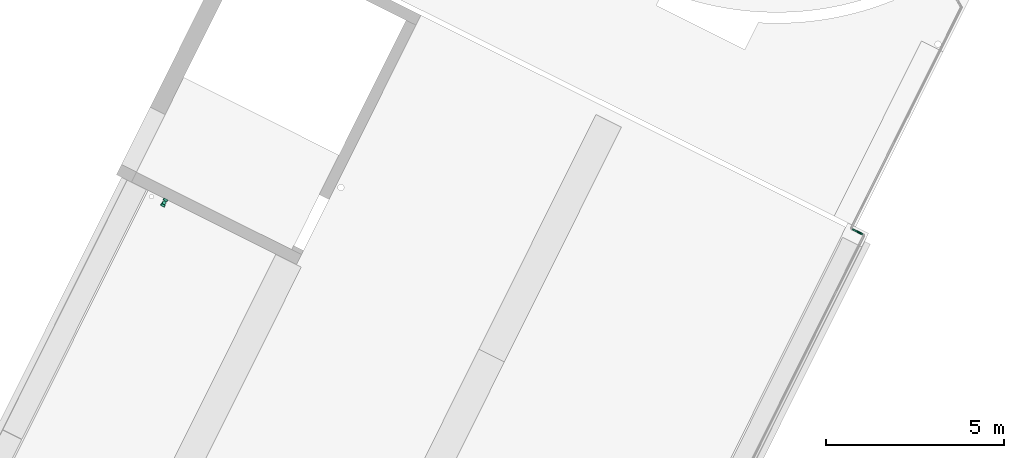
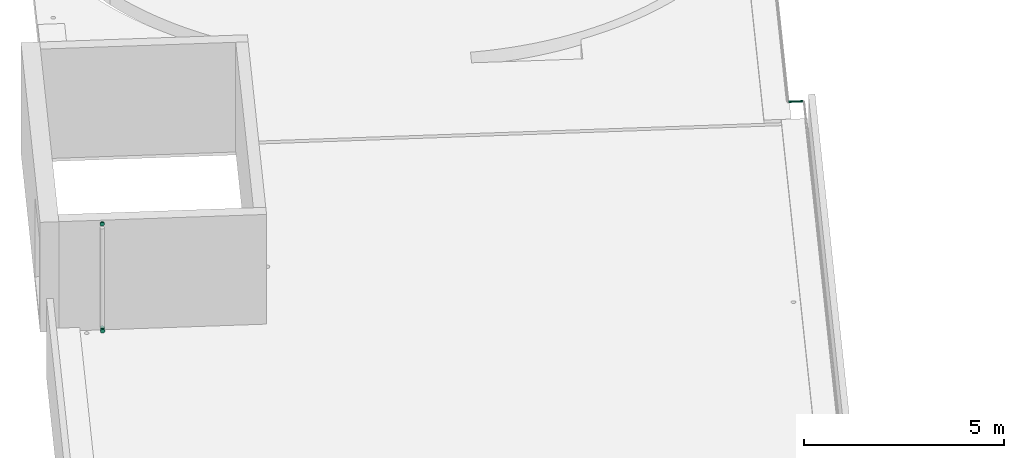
# One storey, part 24 of 34: 3 flow segments, 1 flow fitting.
"""IFC2X3 building model written with IfcOpenShell, lengths in metres."""

import ifcopenshell
import ifcopenshell.guid

model = None  # the IFC model being written
_history = None  # IfcOwnerHistory: only IFC2X3 demands one
_inside = {}  # id of a spatial element -> (the spatial element, [elements in it])
_under = {}  # id of a project, library or spatial element -> (it, [spatial elements below it])
_declared = {}  # id of a project -> (the project, [libraries it declares])
_typed = {}  # id of a type object -> (the type object, [elements of that type])
_made_of = {}  # id of a material, layer set ... -> (it, [elements and type objects made of it])


def new_model(schema):
    """Start an empty IFC model of exactly this schema.

    Asked for "IFC4X3", IfcOpenShell would pick the latest addendum, in which some entities
    have other attributes; the version numbers below select the first issue.
    IFC2X3 requires an IfcOwnerHistory on every rooted entity: one is made here for all.
    """
    global model, _history
    if schema == "IFC4X3":
        model = ifcopenshell.file(schema_version=(4, 3, 0, 0))
    else:
        model = ifcopenshell.file(schema=schema)
    _inside.clear()
    _under.clear()
    _declared.clear()
    _typed.clear()
    _made_of.clear()
    _history = None
    if model.schema == "IFC2X3":
        org = make("IfcOrganization", Name="unknown")
        user = make(
            "IfcPersonAndOrganization",
            ThePerson=make("IfcPerson", FamilyName="unknown"),
            TheOrganization=org,
        )
        app = make(
            "IfcApplication",
            ApplicationDeveloper=org,
            Version="unknown",
            ApplicationFullName="unknown",
            ApplicationIdentifier="unknown",
        )
        _history = make(
            "IfcOwnerHistory",
            OwningUser=user,
            OwningApplication=app,
            ChangeAction="ADDED",
            CreationDate=0,
        )
    return model


def make(cls, **values):
    """One entity of the class cls with the attributes given. An attribute that is None is left unset."""
    return model.create_entity(
        cls, **{name: value for name, value in values.items() if value is not None}
    )


def entity(cls, *values):
    """Any entity or typed value of the class cls, its attributes in the order of the schema. None: left unset."""
    e = model.create_entity(cls)
    for i, value in enumerate(values):
        if value is not None:
            e[i] = value
    return e


def rooted(cls, **values):
    """An entity with a GlobalId (a new one), such as an element, a storey or a relation."""
    return make(cls, GlobalId=ifcopenshell.guid.new(), OwnerHistory=_history, **values)


def si_unit(unit_type, name, prefix=None):
    """IfcSIUnit, for example si_unit("LENGTHUNIT", "METRE", prefix="MILLI")."""
    return make("IfcSIUnit", UnitType=unit_type, Prefix=prefix, Name=name)


def converted_unit(unit_type, name, factor, base, dimensions=None, offset=None):
    """IfcConversionBasedUnit, such as the inch: factor (a typed value) times the base unit."""
    return make(
        "IfcConversionBasedUnit"
        if offset is None
        else "IfcConversionBasedUnitWithOffset",
        ConversionOffset=offset,
        Dimensions=None
        if dimensions is None
        else entity("IfcDimensionalExponents", *dimensions),
        UnitType=unit_type,
        Name=name,
        ConversionFactor=make(
            "IfcMeasureWithUnit", ValueComponent=factor, UnitComponent=base
        ),
    )


def derived_unit(unit_type, elements):
    """IfcDerivedUnit: a product of units, each with its exponent."""
    return make(
        "IfcDerivedUnit",
        Elements=[
            make("IfcDerivedUnitElement", Unit=unit, Exponent=power)
            for unit, power in elements
        ],
        UnitType=unit_type,
    )


def assignment(units):
    """IfcUnitAssignment: the units of a project."""
    return None if units is None else make("IfcUnitAssignment", Units=units)


def point(xyz):
    """IfcCartesianPoint."""
    return None if xyz is None else make("IfcCartesianPoint", Coordinates=xyz)


def direction(xyz):
    """IfcDirection."""
    return None if xyz is None else make("IfcDirection", DirectionRatios=xyz)


def frame(location, z_axis=None, x_axis=None):
    """IfcAxis2Placement3D, a coordinate frame: its origin and axes. An axis left out is left unset."""
    return make(
        "IfcAxis2Placement3D",
        Location=point(location),
        Axis=direction(z_axis),
        RefDirection=direction(x_axis),
    )


def frame_2d(location, x_axis=None):
    """IfcAxis2Placement2D, a coordinate frame in the plane: its origin and x axis."""
    return make(
        "IfcAxis2Placement2D", Location=point(location), RefDirection=direction(x_axis)
    )


def origin():
    """The frame at (0, 0, 0) with its axes left unset."""
    return frame((0.0, 0.0, 0.0))


def origin_2d_with_axis():
    """The frame at (0, 0) in the plane with the x axis (1, 0) written out."""
    return frame_2d((0.0, 0.0), x_axis=(1.0, 0.0))


def place(relative_to, where):
    """IfcLocalPlacement: puts the frame where relative to a parent placement (None: the world)."""
    return make(
        "IfcLocalPlacement", PlacementRelTo=relative_to, RelativePlacement=where
    )


def context(
    kind, dimensions, precision=None, world=None, true_north=None, identifier=None
):
    """IfcGeometricRepresentationContext, for example the 3D "Model" context."""
    return make(
        "IfcGeometricRepresentationContext",
        ContextIdentifier=identifier,
        ContextType=kind,
        CoordinateSpaceDimension=dimensions,
        Precision=precision,
        WorldCoordinateSystem=world,
        TrueNorth=true_north,
    )


def subcontext(parent, identifier, kind, view, scale=None):
    """IfcGeometricRepresentationSubContext, for example "Body" below "Model"."""
    return make(
        "IfcGeometricRepresentationSubContext",
        ContextIdentifier=identifier,
        ContextType=kind,
        ParentContext=parent,
        TargetScale=scale,
        TargetView=view,
    )


def project(units=None, contexts=None):
    """IfcProject with its units and contexts."""
    return rooted(
        "IfcProject",
        Name="project",
        RepresentationContexts=contexts,
        UnitsInContext=assignment(units),
    )


def spatial(cls, under=None, at=None, **own):
    """A site, building, storey or space (cls), placed at a placement, below another one or the project."""
    s = rooted(cls, ObjectPlacement=at, **own)
    if under is not None:
        _under.setdefault(under.id(), (under, []))[1].append(s)
    return s


def profile(cls, at=None, kind="AREA", **sizes):
    """A parametric profile (cls). Its sizes go by their IFC names, for example OverallWidth=200.0."""
    return make(cls, ProfileType=kind, Position=at, **sizes)


def circle(**sizes):
    """IfcCircleProfileDef."""
    return profile("IfcCircleProfileDef", **sizes)


def extrude(swept, where, along, depth):
    """IfcExtrudedAreaSolid: the profile swept, set in the frame where, extruded along a direction by depth."""
    return make(
        "IfcExtrudedAreaSolid",
        SweptArea=swept,
        Position=where,
        ExtrudedDirection=direction(along),
        Depth=depth,
    )


def faces_of(points, faces, orient=None, outer=None):
    """IfcFace entities. A face is a list of loops; a loop is a list of indices into points, from 0.

    orient and outer hold one flag for each loop. By default every Orientation is true, the
    first loop of a face is its IfcFaceOuterBound and the others are IfcFaceBound.
    """
    made = []
    for i, loops in enumerate(faces):
        bounds = []
        for j, loop in enumerate(loops):
            is_outer = j == 0 if outer is None else outer[i][j]
            bounds.append(
                make(
                    "IfcFaceOuterBound" if is_outer else "IfcFaceBound",
                    Bound=make("IfcPolyLoop", Polygon=[points[k] for k in loop]),
                    Orientation=True if orient is None else orient[i][j],
                )
            )
        made.append(make("IfcFace", Bounds=bounds))
    return made


def faceted_brep(points, faces, orient=None, outer=None, voids=None):
    """IfcFacetedBrep: a solid bounded by flat faces; with voids (closed shells), ...WithVoids."""
    shared = [point(p) for p in points]
    hull = make("IfcClosedShell", CfsFaces=faces_of(shared, faces, orient, outer))
    if voids is None:
        return make("IfcFacetedBrep", Outer=hull)
    return make(
        "IfcFacetedBrepWithVoids",
        Outer=hull,
        Voids=[
            make(cls, CfsFaces=faces_of(shared, fs, o, b)) for cls, fs, o, b in voids
        ],
    )


def shape(context_of_items, identifier, shape_type, items):
    """IfcShapeRepresentation: the items that make up one representation, for example the "Body"."""
    return make(
        "IfcShapeRepresentation",
        ContextOfItems=context_of_items,
        RepresentationIdentifier=identifier,
        RepresentationType=shape_type,
        Items=items,
    )


def source(mapping_origin, context_of_items, identifier, shape_type, items):
    """IfcRepresentationMap: a shape defined once, which mapped items show again and again."""
    return make(
        "IfcRepresentationMap",
        MappingOrigin=mapping_origin,
        MappedRepresentation=shape(context_of_items, identifier, shape_type, items),
    )


def transform(
    local_origin,
    x_axis=None,
    y_axis=None,
    z_axis=None,
    scale=None,
    scale2=None,
    scale3=None,
    uniform=True,
):
    """IfcCartesianTransformationOperator3D, or its non-uniform kind. x_axis, y_axis, z_axis: its Axis1, 2, 3."""
    if uniform:
        return make(
            "IfcCartesianTransformationOperator3D",
            Axis1=direction(x_axis),
            Axis2=direction(y_axis),
            LocalOrigin=point(local_origin),
            Scale=scale,
            Axis3=direction(z_axis),
        )
    return make(
        "IfcCartesianTransformationOperator3DnonUniform",
        Axis1=direction(x_axis),
        Axis2=direction(y_axis),
        LocalOrigin=point(local_origin),
        Scale=scale,
        Axis3=direction(z_axis),
        Scale2=scale2,
        Scale3=scale3,
    )


def mapped(mapping_source, mapping_target):
    """IfcMappedItem: shows the shape of a source again, moved by a transform."""
    return make(
        "IfcMappedItem", MappingSource=mapping_source, MappingTarget=mapping_target
    )


def made_of(thing, what):
    """Note that an element or type object is made of a material, layer set ...; save() writes the relation."""
    if what is not None:
        _made_of.setdefault(what.id(), (what, []))[1].append(thing)
    return thing


def type_object(cls, material=None, **own):
    """A type object (cls), such as IfcWallType, which elements share."""
    return made_of(rooted(cls, **own), material)


def type_shapes(of_type, sources):
    """Give a type object the sources (RepresentationMaps) that its elements show as mapped items."""
    of_type.RepresentationMaps = sources


def element(
    cls,
    number,
    at=None,
    inside=None,
    cuts=None,
    type_object=None,
    material=None,
    context=None,
    identifier="Body",
    shape_type=None,
    held_by="IfcProductDefinitionShape",
    body=None,
    shapes=None,
    **own,
):
    """One element of the class cls, such as IfcWall. Its Tag is "e" and its number.

    at: its placement. inside: the storey or other place that contains it. cuts: it is an
    opening in that element (IfcRelVoidsElement). A single representation is given by context,
    identifier, shape_type and body (its items); several are given by shapes. held_by: the class
    of the entity that holds the representations. save() writes the other relations.
    """
    e = rooted(cls, Tag="e%d" % number, ObjectPlacement=at, **own)
    if body is not None:
        shapes = [shape(context, identifier, shape_type, body)]
    if shapes is not None:
        e.Representation = make(held_by, Representations=shapes)
    if inside is not None:
        _inside.setdefault(inside.id(), (inside, []))[1].append(e)
    if cuts is not None:
        rooted(
            "IfcRelVoidsElement", RelatingBuildingElement=cuts, RelatedOpeningElement=e
        )
    if type_object is not None:
        _typed.setdefault(type_object.id(), (type_object, []))[1].append(e)
    return made_of(e, material)


def aggregate(whole, parts):
    """IfcRelAggregates: a whole, such as a stair, and the parts it consists of."""
    return rooted("IfcRelAggregates", RelatingObject=whole, RelatedObjects=parts)


def save(model, path):
    """Write the relations noted so far, then the file.

    IfcRelAggregates (storeys below a building ...), IfcRelContainedInSpatialStructure (elements
    in a storey), IfcRelDefinesByType, IfcRelAssociatesMaterial and IfcRelDeclares: one each for
    every whole, place, type object, material and project.
    """
    for whole, parts in _under.values():
        aggregate(whole, parts)
    for where, things in _inside.values():
        rooted(
            "IfcRelContainedInSpatialStructure",
            RelatedElements=things,
            RelatingStructure=where,
        )
    for kind, things in _typed.values():
        rooted("IfcRelDefinesByType", RelatedObjects=things, RelatingType=kind)
    for what, things in _made_of.values():
        rooted("IfcRelAssociatesMaterial", RelatedObjects=things, RelatingMaterial=what)
    for by, libraries in _declared.values():
        rooted("IfcRelDeclares", RelatingContext=by, RelatedDefinitions=libraries)
    model.write(path)


model = new_model("IFC2X3")

# Units and contexts
model_context = context("Model", 3, precision=1e-05, world=origin(), true_north=direction((0.894925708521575, 0.446215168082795)))
context_of_model = context(None, 3, precision=1e-05, world=origin(), true_north=direction((0.894925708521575, 0.446215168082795)))
body_context = subcontext(model_context, "Body", "Model", "MODEL_VIEW")
ifc_project = project(units=[si_unit("LENGTHUNIT", "METRE"), si_unit("AREAUNIT", "SQUARE_METRE"), si_unit("VOLUMEUNIT", "CUBIC_METRE"), converted_unit("PLANEANGLEUNIT", "DEGREE", entity("IfcRatioMeasure", 0.0174532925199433), si_unit("PLANEANGLEUNIT", "RADIAN"), dimensions=[0, 0, 0, 0, 0, 0, 0]), si_unit("MASSUNIT", "GRAM", prefix="KILO"), si_unit("TIMEUNIT", "SECOND"), si_unit("FREQUENCYUNIT", "HERTZ"), si_unit("THERMODYNAMICTEMPERATUREUNIT", "DEGREE_CELSIUS"), derived_unit("THERMALTRANSMITTANCEUNIT", [(si_unit("MASSUNIT", "GRAM", prefix="KILO"), 1), (si_unit("THERMODYNAMICTEMPERATUREUNIT", "KELVIN"), -1), (si_unit("TIMEUNIT", "SECOND"), -3)]), derived_unit("VOLUMETRICFLOWRATEUNIT", [(si_unit("LENGTHUNIT", "METRE"), 3), (si_unit("TIMEUNIT", "SECOND"), -1)]), si_unit("ELECTRICCURRENTUNIT", "AMPERE"), si_unit("ELECTRICVOLTAGEUNIT", "VOLT"), si_unit("POWERUNIT", "WATT"), si_unit("FORCEUNIT", "NEWTON", prefix="KILO"), si_unit("ILLUMINANCEUNIT", "LUX"), si_unit("LUMINOUSFLUXUNIT", "LUMEN"), si_unit("LUMINOUSINTENSITYUNIT", "CANDELA"), si_unit("PRESSUREUNIT", "PASCAL")], contexts=[model_context, context_of_model])

# Site, building, storey
site_placement = place(None, frame((218.228324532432, 584.720189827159, 0.0), z_axis=(0.0, 0.0, 1.0), x_axis=(0.446215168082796, 0.894925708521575, 0.0)))
site = spatial("IfcSite", under=ifc_project, at=site_placement, Name="Default", CompositionType="ELEMENT")
building_placement = place(site_placement, origin())
building = spatial("IfcBuilding", under=site, at=building_placement, CompositionType="ELEMENT")
storey_placement = place(building_placement, frame((0.0, 0.0, 8.61)))
storey = spatial("IfcBuildingStorey", under=building, at=storey_placement, Name="2 - Piano Secondo", CompositionType="ELEMENT", Elevation=8.61)

# Flow segments
pipe_segment_type_1 = type_object("IfcPipeSegmentType", Name="Tubazione:Antincendio-Tubazione", PredefinedType="NOTDEFINED")
flow_segment_1_placement = place(storey_placement, frame((58.8432597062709, -13.0790789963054, 0.677322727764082)))
element("IfcFlowSegment", 1, at=flow_segment_1_placement, inside=storey, type_object=pipe_segment_type_1, Name="Tubazione:Antincendio-Tubazione", ObjectType="Tubazione:Antincendio-Tubazione", context=body_context, shape_type="SweptSolid", body=[
    extrude(circle(Radius=0.021082, at=origin_2d_with_axis()), frame((0.0226772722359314, 0.0, 0.0226772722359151), z_axis=(0.0, 1.0, 0.0), x_axis=(1.0, 0.0, 0.0)), (0.0, 0.0, 1.0), 0.34600000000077),
])
pipe_segment_type_2 = type_object("IfcPipeSegmentType", Name="Tubazione:Pluviale-Tubazione Inox", PredefinedType="NOTDEFINED")
flow_segment_2_placement = place(storey_placement, frame((50.7900494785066, 4.85017573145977, 0.0484047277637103)))
element("IfcFlowSegment", 2, at=flow_segment_2_placement, inside=storey, type_object=pipe_segment_type_2, Name="Tubazione:Pluviale-Tubazione Inox", ObjectType="Tubazione:Pluviale-Tubazione Inox", context=body_context, shape_type="SweptSolid", body=[
    extrude(circle(Radius=0.05715, at=origin_2d_with_axis()), frame((0.0, 0.0587452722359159, 0.0587452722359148), z_axis=(1.0, 0.0, 0.0), x_axis=(0.0, 1.0, 0.0)), (0.0, 0.0, 1.0), 0.0499999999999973),
])
flow_segment_3_placement = place(storey_placement, frame((50.9575244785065, 4.85017573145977, 3.18840472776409)))
element("IfcFlowSegment", 3, at=flow_segment_3_placement, inside=storey, type_object=pipe_segment_type_2, Name="Tubazione:Pluviale-Tubazione Inox", ObjectType="Tubazione:Pluviale-Tubazione Inox", context=body_context, shape_type="SweptSolid", body=[
    extrude(circle(Radius=0.05715, at=origin_2d_with_axis()), frame((0.0, 0.0587452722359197, 0.0587452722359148), z_axis=(1.0, 0.0, 0.0), x_axis=(0.0, -1.0, 0.0)), (0.0, 0.0, 1.0), 0.0462625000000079),
])

# Flow fitting
pipe_fitting_type = type_object("IfcPipeFittingType", Name="Standard", PredefinedType="NOTDEFINED")
shared_shape = source(origin(), body_context, "Body", "Brep", [
    faceted_brep([(-0.0587374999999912, 0.0135588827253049, -0.0506024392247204), (-0.0587374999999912, 0.0, -0.0523875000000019), (-0.0587374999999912, -0.0135588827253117, -0.0506024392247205), (-0.0587374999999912, -0.0261937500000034, -0.0453689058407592), (-0.0587374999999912, -0.0370435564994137, -0.0370435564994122), (-0.0587374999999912, -0.0453689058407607, -0.026193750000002), (-0.0587374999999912, -0.0506024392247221, -0.0135588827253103), (-0.0587374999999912, -0.0523875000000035, 0.0), (-0.0587374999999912, -0.0506024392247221, 0.0135588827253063), (-0.0587374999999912, -0.0453689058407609, 0.026193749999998), (-0.0587374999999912, -0.0370435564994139, 0.0370435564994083), (-0.0587374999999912, -0.0261937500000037, 0.0453689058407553), (-0.0587374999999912, -0.013558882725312, 0.0506024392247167), (-0.0587374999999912, 0.0, 0.0523874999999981), (-0.0587374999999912, 0.0135588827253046, 0.0506024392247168), (-0.0587374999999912, 0.0198763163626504, 0.0479856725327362), (-0.0587374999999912, 0.0261937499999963, 0.0453689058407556), (-0.0587374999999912, 0.0370435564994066, 0.0370435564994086), (-0.0587374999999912, 0.0453689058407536, 0.0261937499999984), (-0.0587374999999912, 0.050602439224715, 0.0135588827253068), (-0.0587374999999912, 0.0523874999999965, 0.0), (-0.0587374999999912, 0.0506024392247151, -0.0135588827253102), (-0.0587374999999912, 0.0453689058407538, -0.0261937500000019), (-0.0587374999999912, 0.0370435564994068, -0.0370435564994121), (-0.0587374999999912, 0.0261937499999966, -0.0453689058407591), (-0.0506024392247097, 0.0587374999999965, -0.0135588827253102), (-0.0523874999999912, 0.0587374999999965, 0.0), (-0.0506024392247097, 0.0587374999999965, 0.0135588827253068), (-0.0453689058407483, 0.0587374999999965, 0.0261937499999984), (-0.0370435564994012, 0.0587374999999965, 0.0370435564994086), (-0.0261937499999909, 0.0587374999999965, 0.0453689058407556), (-0.0135588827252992, 0.0587374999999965, 0.0506024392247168), (0.0, 0.0587374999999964, 0.0523874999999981), (0.0135588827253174, 0.0587374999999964, 0.0506024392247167), (0.026193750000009, 0.0587374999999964, 0.0453689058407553), (0.0370435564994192, 0.0587374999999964, 0.0370435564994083), (0.0453689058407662, 0.0587374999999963, 0.026193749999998), (0.0506024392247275, 0.0587374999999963, 0.0135588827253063), (0.0523875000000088, 0.0587374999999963, 0.0), (0.0506024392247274, 0.0587374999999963, -0.0135588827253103), (0.0453689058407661, 0.0587374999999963, -0.026193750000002), (0.037043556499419, 0.0587374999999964, -0.0370435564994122), (0.0261937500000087, 0.0587374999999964, -0.0453689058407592), (0.0135588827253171, 0.0587374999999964, -0.0506024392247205), (0.0, 0.0587374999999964, -0.0523875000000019), (-0.0135588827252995, 0.0587374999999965, -0.0506024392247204), (-0.0198763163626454, 0.0587374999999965, -0.0479856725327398), (-0.0261937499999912, 0.0587374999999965, -0.0453689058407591), (-0.0370435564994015, 0.0587374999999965, -0.0370435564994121), (-0.0453689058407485, 0.0587374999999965, -0.0261937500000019), (-0.0477232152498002, -0.0428768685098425, 0.029234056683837), (-0.0404424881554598, -0.0487405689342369, 0.0146871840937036), (-0.0330754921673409, -0.0426115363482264, 0.02541456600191), (-0.0415677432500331, -0.049668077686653, 0.0), (0.0487405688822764, 0.0404424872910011, 0.0146871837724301), (0.031246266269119, 0.0148508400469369, 0.0321295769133), (0.0388833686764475, 0.0178115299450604, 0.0229045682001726), (0.0367285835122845, 0.0270467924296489, 0.0315108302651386), (-0.0199941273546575, -0.0437374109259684, 0.0127317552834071), (-0.0243979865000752, -0.0469486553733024, 0.0), (-0.00890892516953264, -0.039056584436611, 0.0), (0.0201213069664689, 0.0171012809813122, 0.042637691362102), (0.0230744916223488, 0.037920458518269, 0.0456608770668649), (0.00972866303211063, 0.0282591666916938, 0.0498177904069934), (-0.0491222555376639, 0.0144700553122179, 0.0506347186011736), (-0.0461599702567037, 0.0299660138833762, 0.0446893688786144), (-0.0379204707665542, -0.0230744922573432, 0.0456608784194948), (-0.0171012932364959, -0.0201213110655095, 0.0426376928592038), (-0.028259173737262, -0.00972866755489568, 0.0498177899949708), (-0.040589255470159, -0.0342234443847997, 0.0380789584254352), (-0.0270467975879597, -0.0367285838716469, 0.0315108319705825), (-0.0271152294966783, -0.0291112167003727, 0.03930979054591), (-0.0534446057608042, 0.0534446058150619, 0.0108471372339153), (-0.0495063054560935, 0.0496646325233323, 0.025443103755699), (-0.0173243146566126, 0.0419210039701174, 0.0504710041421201), (-0.00371546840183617, 0.0428654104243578, 0.0523668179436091), (-0.0450087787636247, -0.00973337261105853, 0.0511988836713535), (-0.0299568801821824, 0.046486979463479, 0.0446150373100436), (-0.0399230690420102, 0.0173966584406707, 0.0506667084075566), (-0.0424424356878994, 0.00369105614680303, 0.052370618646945), (-0.0263131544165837, 0.00911196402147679, 0.0523846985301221), (-0.00146414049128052, -0.0204367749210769, 0.0349996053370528), (0.00326567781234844, -0.0262911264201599, 0.0241349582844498), (0.0134674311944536, -0.014700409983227, 0.0280406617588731), (-0.051439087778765, 0.0405009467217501, 0.0348719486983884), (0.00973337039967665, 0.0450087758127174, 0.0511988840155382), (0.035173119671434, 0.00432985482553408, 0.0162746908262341), (0.0311645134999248, -0.00658013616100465, 0.0), (0.0390565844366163, 0.00890892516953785, 0.0), (0.00819521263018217, -0.00866873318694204, 0.0378156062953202), (-0.00965050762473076, -0.0101996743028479, 0.0455427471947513), (0.0428768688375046, 0.047723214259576, 0.0292340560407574), (-0.0246124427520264, 0.0342586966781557, 0.0496407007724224), (-0.0333214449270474, 0.0280057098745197, 0.048875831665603), (-0.0208506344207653, 0.0237046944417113, 0.0518992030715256), (0.0342234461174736, 0.0405892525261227, 0.0380789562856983), (0.0291112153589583, 0.0271152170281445, 0.0393097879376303), (0.0469486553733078, 0.0243979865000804, 0.0), (0.0496680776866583, 0.0415677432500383, 0.0), (0.043737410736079, 0.0199941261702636, 0.0127317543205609), (-0.00986713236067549, 0.0306998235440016, 0.0523327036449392), (-0.0542473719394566, 0.0542473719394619, 0.0), (-0.0405009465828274, 0.0514390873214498, 0.0348719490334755), (-0.0424073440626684, 0.0424073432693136, 0.0383928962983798), (0.0238466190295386, -0.0126740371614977, 0.0141509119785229), (-0.0141620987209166, -0.000990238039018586, 0.0499511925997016), (-0.00750695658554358, 0.0132290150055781, 0.0514652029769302), (0.00658013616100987, -0.0311645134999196, 0.0), (-0.00432985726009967, -0.0351731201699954, 0.0162746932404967), (0.042611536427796, 0.0330754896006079, 0.025414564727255), (-0.0347196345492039, 0.037964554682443, 0.0449042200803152), (0.000171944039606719, 0.0306895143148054, 0.0519816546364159), (-0.0178115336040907, -0.0388833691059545, 0.022904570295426), (0.0188723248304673, -0.0188723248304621, 0.0), (0.0120090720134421, -0.0250981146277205, 0.0121471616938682), (0.0200875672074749, 0.000757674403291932, 0.0348495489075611), (0.024463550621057, -0.0051316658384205, 0.0247890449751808), (0.000788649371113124, -0.000788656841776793, 0.0457929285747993), (0.00240405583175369, 0.0189002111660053, 0.0504158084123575), (0.0110535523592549, 0.0154294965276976, 0.0468715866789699), (-0.0148508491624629, -0.0312462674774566, 0.0321295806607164), (0.0125287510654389, 0.00468746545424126, 0.0424445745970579), (-0.0144700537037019, 0.0491222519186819, -0.0506347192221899), (-0.00432985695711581, -0.0351731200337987, -0.0162746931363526), (-0.0199941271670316, -0.0437374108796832, -0.0127317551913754), (-0.041921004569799, 0.0173243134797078, -0.0504710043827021), (-0.0428654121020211, 0.00371546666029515, -0.0523668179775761), (-0.0496646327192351, 0.0495063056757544, -0.0254431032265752), (-0.0424073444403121, 0.0424073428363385, -0.0383928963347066), (-0.0514390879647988, 0.0405009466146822, -0.0348719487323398), (0.020436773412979, 0.00146413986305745, -0.0349996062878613), (0.00866872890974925, -0.00819521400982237, -0.0378156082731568), (0.0101996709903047, 0.00965050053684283, -0.0455427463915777), (-0.0171012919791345, -0.020121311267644, -0.0426376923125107), (-0.0148508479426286, -0.0312462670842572, -0.0321295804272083), (-0.027115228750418, -0.0291112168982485, -0.0393097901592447), (-0.00911196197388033, 0.0263131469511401, -0.0523846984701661), (0.00972866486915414, 0.0282591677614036, -0.049817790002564), (0.000990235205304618, 0.0141620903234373, -0.0499511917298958), (-0.0132290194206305, 0.0075069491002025, -0.0514652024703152), (-0.0237046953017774, 0.0208506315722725, -0.0518992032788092), (-0.0404424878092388, -0.0487405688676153, -0.014687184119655), (-0.0477232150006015, -0.0428768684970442, -0.0292340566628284), (-0.0280057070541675, 0.0333214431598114, -0.0488758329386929), (-0.0299660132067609, 0.0461599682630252, -0.0446893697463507), (-0.0173966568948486, 0.0399230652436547, -0.0506667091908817), (-0.0534446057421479, 0.0534446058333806, -0.0108471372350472), (-0.0405892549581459, -0.034223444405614, -0.0380789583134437), (-0.0379204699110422, -0.0230744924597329, -0.0456608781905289), (-0.0282591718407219, -0.00972866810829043, -0.0498177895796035), (-0.0342586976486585, 0.0246124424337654, -0.0496407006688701), (-0.0464869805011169, 0.0299568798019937, -0.044615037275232), (-0.045008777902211, -0.00973337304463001, -0.0511988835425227), (-0.0178115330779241, -0.0388833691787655, -0.022904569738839), (-0.0270467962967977, -0.0367285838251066, -0.0315108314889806), (-0.0330754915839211, -0.0426115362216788, -0.0254145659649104), (0.0230744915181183, 0.0379204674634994, -0.0456608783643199), (0.0291112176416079, 0.0271152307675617, -0.0393097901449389), (0.0201213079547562, 0.0171012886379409, -0.0426376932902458), (-0.040500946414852, 0.0514390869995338, -0.0348719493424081), (-0.00369105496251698, 0.0424424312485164, -0.0523706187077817), (0.0428768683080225, 0.0477232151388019, -0.0292340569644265), (0.00973337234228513, 0.045008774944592, -0.0511988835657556), (0.0342234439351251, 0.0405892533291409, -0.0380789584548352), (0.0262911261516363, -0.00326567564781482, -0.0241349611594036), (0.0147004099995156, -0.0134674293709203, -0.0280406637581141), (0.0487405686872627, 0.0404424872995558, -0.0146871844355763), (0.0437374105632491, 0.0199941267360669, -0.0127317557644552), (0.0426115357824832, 0.0330754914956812, -0.0254145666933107), (0.0126740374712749, -0.0238466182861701, -0.0141509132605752), (-0.0306998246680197, 0.00986712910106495, -0.052332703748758), (0.0367285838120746, 0.0270467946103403, -0.0315108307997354), (0.0351731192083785, 0.00432985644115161, -0.0162746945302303), (-0.0379645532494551, 0.0347196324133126, -0.0449042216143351), (-0.0306895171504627, -0.000171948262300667, -0.0519816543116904), (0.0388833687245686, 0.0178115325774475, -0.0229045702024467), (0.025098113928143, -0.0120090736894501, -0.0121471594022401), (-0.000757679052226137, -0.0200875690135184, -0.0348495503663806), (0.0051316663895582, -0.0244635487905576, -0.0247890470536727), (0.000788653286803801, -0.000788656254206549, -0.0457929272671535), (-0.0189002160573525, -0.00240406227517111, -0.050415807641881), (-0.0154295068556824, -0.0110535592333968, -0.0468715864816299), (0.0312462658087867, 0.0148508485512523, -0.0321295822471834), (-0.00468747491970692, -0.0125287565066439, -0.0424445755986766)], [[[0, 1, 2, 3, 4, 5, 6, 7, 8, 9, 10, 11, 12, 13, 14, 15, 16, 17, 18, 19, 20, 21, 22, 23, 24]], [[25, 26, 27, 28, 29, 30, 31, 32, 33, 34, 35, 36, 37, 38, 39, 40, 41, 42, 43, 44, 45, 46, 47, 48, 49]], [[50, 51, 52]], [[53, 8, 7]], [[36, 54, 37]], [[55, 56, 57]], [[58, 59, 60]], [[61, 62, 63]], [[64, 65, 16]], [[66, 67, 68]], [[11, 69, 66]], [[70, 71, 69]], [[72, 73, 27]], [[31, 74, 75]], [[66, 68, 76]], [[13, 12, 76]], [[30, 77, 74]], [[16, 15, 14, 64]], [[78, 79, 80]], [[81, 82, 83]], [[51, 9, 8]], [[18, 17, 84]], [[30, 29, 77]], [[84, 73, 18]], [[72, 20, 19]], [[12, 11, 66]], [[16, 65, 17]], [[10, 9, 50]], [[33, 32, 85]], [[18, 73, 19]], [[62, 33, 85]], [[86, 87, 88]], [[81, 89, 90]], [[33, 62, 34]], [[35, 91, 36]], [[75, 32, 31]], [[92, 93, 94]], [[36, 91, 54]], [[62, 95, 34]], [[61, 55, 96]], [[54, 97, 98]], [[93, 65, 78]], [[97, 99, 88]], [[100, 75, 74]], [[101, 20, 72]], [[11, 10, 69]], [[101, 72, 26]], [[66, 71, 67]], [[102, 73, 103]], [[86, 88, 99]], [[28, 102, 29]], [[87, 86, 104]], [[28, 27, 73]], [[80, 68, 105]], [[106, 94, 80]], [[31, 30, 74]], [[14, 13, 79]], [[107, 108, 60]], [[35, 34, 95]], [[54, 109, 99]], [[8, 53, 51]], [[98, 37, 54]], [[76, 79, 13]], [[78, 80, 94]], [[93, 78, 94]], [[84, 65, 103]], [[102, 77, 29]], [[65, 93, 110]], [[74, 92, 100]], [[75, 111, 85]], [[57, 96, 55]], [[91, 95, 109]], [[50, 69, 10]], [[70, 52, 112]], [[51, 59, 58]], [[59, 51, 53]], [[38, 37, 98]], [[108, 112, 58]], [[58, 112, 52]], [[107, 113, 114]], [[61, 115, 55]], [[116, 115, 83]], [[99, 56, 86]], [[55, 115, 116]], [[108, 58, 60]], [[51, 58, 52]], [[54, 99, 97]], [[99, 109, 56]], [[79, 68, 80]], [[106, 105, 117]], [[63, 111, 118]], [[100, 111, 75]], [[119, 63, 118]], [[81, 83, 89]], [[81, 67, 120]], [[105, 90, 117]], [[121, 115, 61]], [[83, 104, 116]], [[83, 82, 114]], [[114, 113, 104]], [[83, 114, 104]], [[113, 87, 104]], [[108, 107, 114]], [[82, 120, 108]], [[83, 115, 89]], [[120, 82, 81]], [[114, 82, 108]], [[121, 89, 115]], [[90, 89, 117]], [[75, 85, 32]], [[62, 85, 63]], [[66, 76, 12]], [[79, 76, 68]], [[94, 100, 92]], [[103, 110, 77]], [[94, 106, 100]], [[106, 118, 111]], [[106, 111, 100]], [[85, 111, 63]], [[106, 117, 118]], [[117, 121, 119]], [[74, 77, 92]], [[110, 92, 77]], [[104, 86, 116]], [[55, 116, 86]], [[108, 120, 112]], [[70, 112, 120]], [[71, 70, 120]], [[69, 52, 70]], [[67, 71, 120]], [[69, 71, 66]], [[57, 56, 109]], [[55, 86, 56]], [[109, 95, 57]], [[96, 95, 62]], [[95, 96, 57]], [[61, 96, 62]], [[73, 102, 28]], [[77, 102, 103]], [[65, 84, 17]], [[73, 84, 103]], [[80, 105, 106]], [[90, 68, 67]], [[68, 90, 105]], [[81, 90, 67]], [[73, 72, 19]], [[26, 72, 27]], [[51, 50, 9]], [[69, 50, 52]], [[95, 91, 35]], [[54, 91, 109]], [[78, 65, 64]], [[14, 79, 64]], [[79, 78, 64]], [[119, 121, 61]], [[89, 121, 117]], [[63, 119, 61]], [[117, 119, 118]], [[65, 110, 103]], [[92, 110, 93]], [[46, 45, 122, 47]], [[123, 60, 124]], [[125, 0, 24]], [[1, 0, 126]], [[127, 128, 129]], [[59, 124, 60]], [[22, 129, 23]], [[130, 131, 132]], [[22, 21, 127]], [[133, 134, 135]], [[136, 137, 138]], [[139, 140, 136]], [[141, 5, 142]], [[143, 144, 145]], [[141, 59, 53]], [[146, 127, 21]], [[147, 3, 148]], [[133, 148, 149]], [[2, 148, 3]], [[150, 143, 140]], [[24, 23, 151]], [[142, 5, 4]], [[4, 3, 147]], [[2, 152, 148]], [[123, 107, 60]], [[134, 153, 154]], [[20, 101, 146]], [[141, 155, 124]], [[26, 25, 146]], [[156, 157, 158]], [[49, 159, 127]], [[122, 144, 47]], [[45, 44, 160]], [[48, 159, 49]], [[41, 40, 161]], [[145, 160, 136]], [[156, 137, 162]], [[151, 125, 24]], [[144, 48, 47]], [[0, 125, 126]], [[43, 162, 44]], [[163, 156, 42]], [[130, 164, 165]], [[166, 40, 39]], [[167, 97, 88]], [[137, 156, 158]], [[2, 1, 152]], [[168, 161, 166]], [[107, 123, 169]], [[38, 98, 39]], [[42, 41, 163]], [[170, 126, 125]], [[171, 157, 163]], [[43, 42, 156]], [[5, 141, 6]], [[39, 98, 166]], [[20, 146, 21]], [[87, 172, 88]], [[49, 127, 25]], [[53, 6, 141]], [[162, 160, 44]], [[145, 136, 140]], [[143, 145, 140]], [[159, 144, 128]], [[129, 151, 23]], [[144, 143, 173]], [[125, 150, 170]], [[126, 174, 152]], [[154, 135, 134]], [[142, 147, 155]], [[161, 163, 41]], [[171, 168, 175]], [[166, 97, 167]], [[97, 166, 98]], [[7, 6, 53]], [[172, 175, 167]], [[167, 175, 168]], [[87, 113, 176]], [[133, 177, 134]], [[178, 177, 165]], [[124, 153, 123]], [[134, 177, 178]], [[172, 167, 88]], [[166, 167, 168]], [[141, 124, 59]], [[124, 155, 153]], [[160, 137, 136]], [[139, 138, 179]], [[149, 174, 180]], [[170, 174, 126]], [[181, 149, 180]], [[130, 165, 131]], [[130, 158, 182]], [[138, 132, 179]], [[183, 177, 133]], [[165, 169, 178]], [[165, 164, 176]], [[176, 113, 169]], [[165, 176, 169]], [[113, 107, 169]], [[172, 87, 176]], [[164, 182, 172]], [[165, 177, 131]], [[182, 164, 130]], [[176, 164, 172]], [[183, 131, 177]], [[132, 131, 179]], [[126, 152, 1]], [[148, 152, 149]], [[156, 162, 43]], [[160, 162, 137]], [[140, 170, 150]], [[128, 173, 151]], [[140, 139, 170]], [[139, 180, 174]], [[139, 174, 170]], [[152, 174, 149]], [[139, 179, 180]], [[179, 183, 181]], [[125, 151, 150]], [[173, 150, 151]], [[169, 123, 178]], [[134, 178, 123]], [[172, 182, 175]], [[171, 175, 182]], [[157, 171, 182]], [[163, 168, 171]], [[158, 157, 182]], [[163, 157, 156]], [[154, 153, 155]], [[134, 123, 153]], [[155, 147, 154]], [[135, 147, 148]], [[147, 135, 154]], [[133, 135, 148]], [[127, 129, 22]], [[151, 129, 128]], [[144, 159, 48]], [[127, 159, 128]], [[136, 138, 139]], [[132, 137, 158]], [[137, 132, 138]], [[130, 132, 158]], [[26, 146, 101]], [[127, 146, 25]], [[166, 161, 40]], [[163, 161, 168]], [[147, 142, 4]], [[141, 142, 155]], [[145, 144, 122]], [[45, 160, 122]], [[160, 145, 122]], [[181, 183, 133]], [[131, 183, 179]], [[149, 181, 133]], [[179, 181, 180]], [[144, 173, 128]], [[150, 173, 143]]]),
])
type_shapes(pipe_fitting_type, [shared_shape])
flow_fitting_placement = place(storey_placement, frame((50.8987869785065, 4.90892100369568, 0.107149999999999), z_axis=(0.0, -1.0, 0.0), x_axis=(1.0, 0.0, 0.0)))
element("IfcFlowFitting", 4, at=flow_fitting_placement, inside=storey, type_object=pipe_fitting_type, Name="M_Gomito - Generico:Standard", ObjectType="Standard", context=body_context, shape_type="MappedRepresentation", body=[
    mapped(shared_shape, transform((0.0, 0.0, 0.0), scale=1.0)),
])

save(model, "model.ifc")
